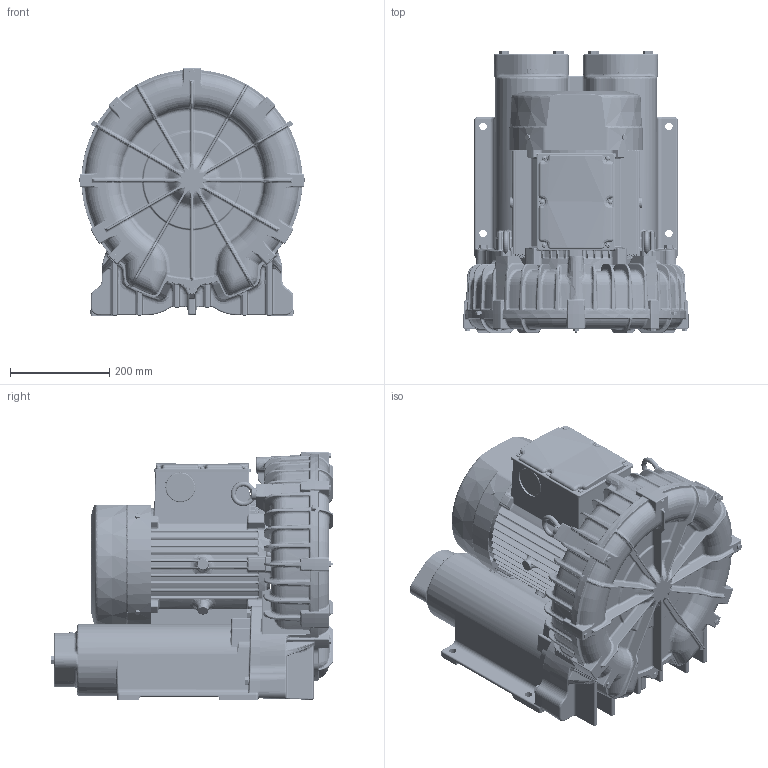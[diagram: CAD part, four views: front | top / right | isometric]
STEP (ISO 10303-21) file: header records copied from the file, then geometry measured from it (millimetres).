
FILE_DESCRIPTION(/* description */ (''),/* implementation_level */ '2;1');
FILE_NAME(/* name */ 'Z:\90_設計課\開發\鼓風機UL化\04-図面\RB 3D圖需求\VFZ801A-7W.stp',/* time_stamp */ '2017-03-13T09:31:08+08:00',/* author */ ('daniel'),/* organization */ (''),/* preprocessor_version */ 'ST-DEVELOPER v16.1',/* originating_system */ 'Autodesk Inventor 2016',/* authorisation */ '');
FILE_SCHEMA (('AUTOMOTIVE_DESIGN { 1 0 10303 214 3 1 1 }'));
Products named in the file (1): VFZ801A-7W
Bounding box: 453.94 x 570.36 x 500.94 mm (x, y, z)
Volume: 47390893.3 mm3; surface area: 2105660.6 mm2
Topology: 1 solids, 1 shells, 8063 faces, 19167 edges, 10883 vertices
Faces by surface type: bspline 3771, cylinder 1504, plane 1312, torus 742, cone 459, sphere 275
Full cylindrical faces by diameter (mm): 6 x4, 10 x7, 15 x4, 18.4 x1, 63 x3, 72.226 x2, 270 x1, 274 x1
Entity records: 401028 total; most frequent: CARTESIAN_POINT 235377, ORIENTED_EDGE 37594, DIRECTION 26809, EDGE_CURVE 18788, AXIS2_PLACEMENT_3D 11438, VERTEX_POINT 10837, EDGE_LOOP 8210, FACE_OUTER_BOUND 8063
